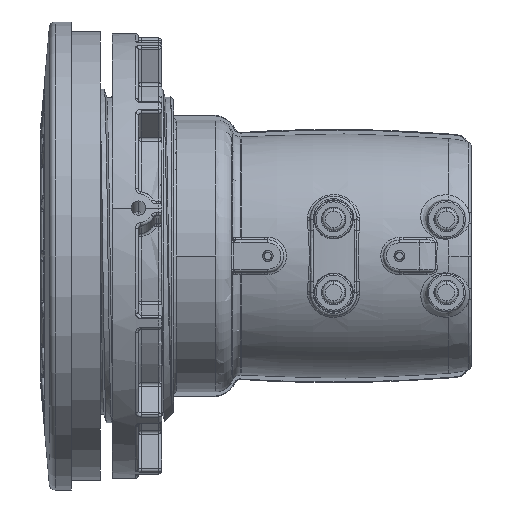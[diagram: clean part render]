
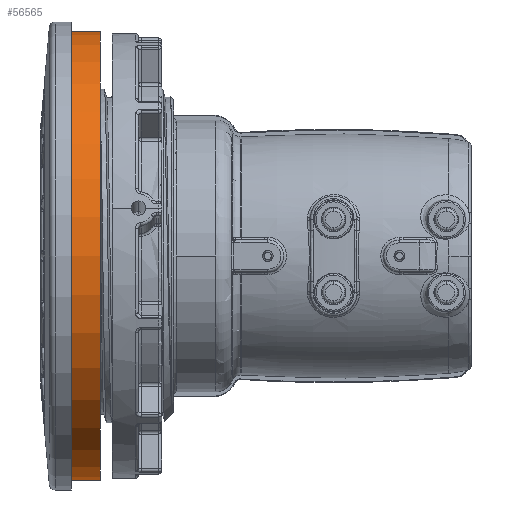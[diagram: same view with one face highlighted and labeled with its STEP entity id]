
A CAD part, left-side view. The second image highlights one B-rep face of the part: STEP entity #56565.
In plain terms, the highlighted cylindrical face has radius 76.75 mm (diameter 153.5 mm), a partial arc.
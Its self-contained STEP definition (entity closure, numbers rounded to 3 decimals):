
#20573 = VERTEX_POINT ( 'NONE', #42191 ) ;
#20574 = VERTEX_POINT ( 'NONE', #42190 ) ;
#20612 = EDGE_CURVE ( 'NONE', #20573, #20616, #42244, .T. ) ;
#20614 = EDGE_CURVE ( 'NONE', #20574, #20617, #42232, .T. ) ;
#20616 = VERTEX_POINT ( 'NONE', #42233 ) ;
#20617 = VERTEX_POINT ( 'NONE', #42238 ) ;
#22640 = EDGE_CURVE ( 'NONE', #20574, #20573, #48465, .T. ) ;
#42190 = CARTESIAN_POINT ( 'NONE',  ( 0., 67.391, -76.75 ) ) ;
#42191 = CARTESIAN_POINT ( 'NONE',  ( 0., 67.391, 76.75 ) ) ;
#42228 = DIRECTION ( 'NONE',  ( 0., -1., 0. ) ) ;
#42230 = VECTOR ( 'NONE', #42228, 1000. ) ;
#42231 = CARTESIAN_POINT ( 'NONE',  ( 0., 57.391, -76.75 ) ) ;
#42232 = LINE ( 'NONE', #42231, #42230 ) ;
#42233 = CARTESIAN_POINT ( 'NONE',  ( 0., 57.391, 76.75 ) ) ;
#42238 = CARTESIAN_POINT ( 'NONE',  ( 0., 57.391, -76.75 ) ) ;
#42240 = DIRECTION ( 'NONE',  ( 0., -1., 0. ) ) ;
#42241 = VECTOR ( 'NONE', #42240, 1000. ) ;
#42242 = CARTESIAN_POINT ( 'NONE',  ( 0., 57.391, 76.75 ) ) ;
#42244 = LINE ( 'NONE', #42242, #42241 ) ;
#48465 = CIRCLE ( 'NONE', #48499, 76.75 ) ;
#48496 = DIRECTION ( 'NONE',  ( 0., 0., 1. ) ) ;
#48497 = DIRECTION ( 'NONE',  ( 0., 1., 0. ) ) ;
#48498 = CARTESIAN_POINT ( 'NONE',  ( 0., 67.391, 0. ) ) ;
#48499 = AXIS2_PLACEMENT_3D ( 'NONE', #48498, #48497, #48496 ) ;
#54666 = AXIS2_PLACEMENT_3D ( 'NONE', #54667, #54679, #54721 ) ;
#54667 = CARTESIAN_POINT ( 'NONE',  ( 0., 57.391, 0. ) ) ;
#54673 = FACE_OUTER_BOUND ( 'NONE', #56545, .T. ) ;
#54674 = CYLINDRICAL_SURFACE ( 'NONE', #54666, 76.75 ) ;
#54679 = DIRECTION ( 'NONE',  ( 0., -1., 0. ) ) ;
#54714 = CIRCLE ( 'NONE', #54743, 76.75 ) ;
#54721 = DIRECTION ( 'NONE',  ( 0., 0., -1. ) ) ;
#54729 = DIRECTION ( 'NONE',  ( 0., 0., -1. ) ) ;
#54731 = DIRECTION ( 'NONE',  ( 0., -1., 0. ) ) ;
#54732 = CARTESIAN_POINT ( 'NONE',  ( 0., 57.391, 0. ) ) ;
#54743 = AXIS2_PLACEMENT_3D ( 'NONE', #54732, #54731, #54729 ) ;
#56545 = EDGE_LOOP ( 'NONE', ( #56625, #56619, #56587, #56583 ) ) ;
#56565 = ADVANCED_FACE ( 'NONE', ( #54673 ), #54674, .T. ) ;
#56583 = ORIENTED_EDGE ( 'NONE', *, *, #56621, .F. ) ;
#56587 = ORIENTED_EDGE ( 'NONE', *, *, #20614, .T. ) ;
#56619 = ORIENTED_EDGE ( 'NONE', *, *, #22640, .F. ) ;
#56621 = EDGE_CURVE ( 'NONE', #20616, #20617, #54714, .T. ) ;
#56625 = ORIENTED_EDGE ( 'NONE', *, *, #20612, .F. ) ;
